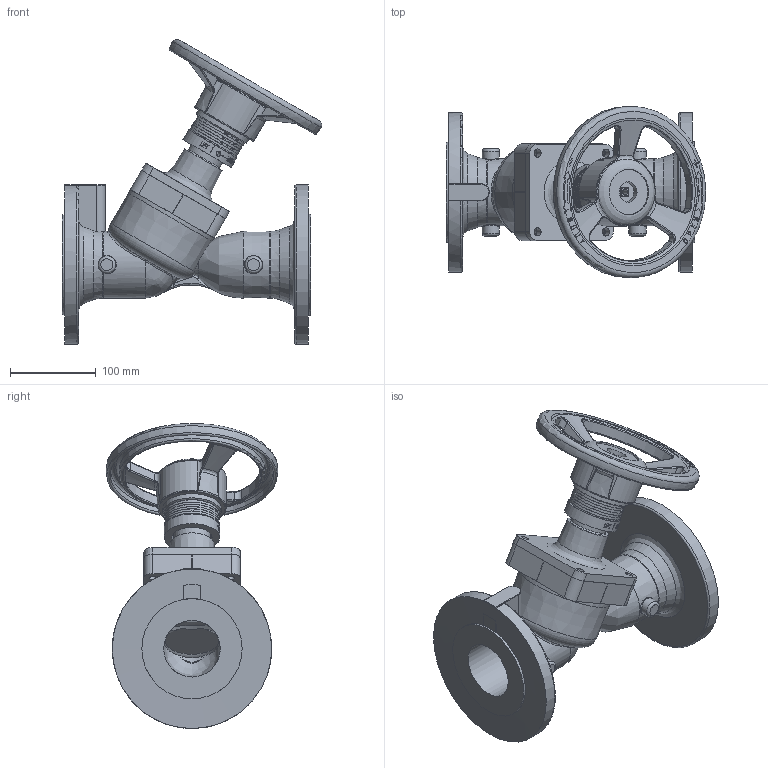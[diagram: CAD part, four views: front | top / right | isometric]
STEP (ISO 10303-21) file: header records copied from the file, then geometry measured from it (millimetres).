
FILE_DESCRIPTION((''),'2;1');
FILE_NAME('P:\Fastrack\53972_CRANE 3D\DM921-941\WORKSPACE\DM921-941\DM921_DN65\NEW\DM921_DN65.stp','2011-02-24T15:51:16',('btaylor'),(''),'Autodesk Inventor 2008','Autodesk Inventor 2008','');
FILE_SCHEMA(('AUTOMOTIVE_DESIGN { 1 0 10303 214 1 1 1 1 }'));
Length unit declared in the file: millimetre
Products named in the file (1): DM921_DN65
Bounding box: 302.41 x 200.2 x 355.69 mm (x, y, z)
Volume: 2655685.9 mm3; surface area: 381818.7 mm2
Topology: 1 solids, 1 shells, 790 faces, 2045 edges, 1304 vertices
Faces by surface type: plane 302, bspline 257, cylinder 144, torus 45, cone 42
Full cylindrical faces by diameter (mm): 6 x2, 8 x4, 9.5 x4, 17.3 x1, 20 x8, 24 x1, 40 x1, 42 x1, 47 x1, 53 x1, 55.7 x1, 60.7 x1, 62 x3, 65 x1, 66.01 x2, 68 x1, 78.01 x2, 118 x1, 186.01 x1
Entity records: 69938 total; most frequent: CARTESIAN_POINT 52548, ORIENTED_EDGE 3830, DIRECTION 2772, EDGE_CURVE 1915, VERTEX_POINT 1259, AXIS2_PLACEMENT_3D 1015, EDGE_LOOP 949, FACE_OUTER_BOUND 790
